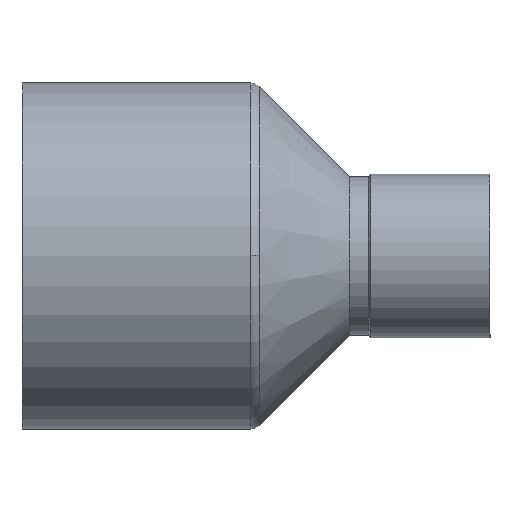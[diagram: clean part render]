
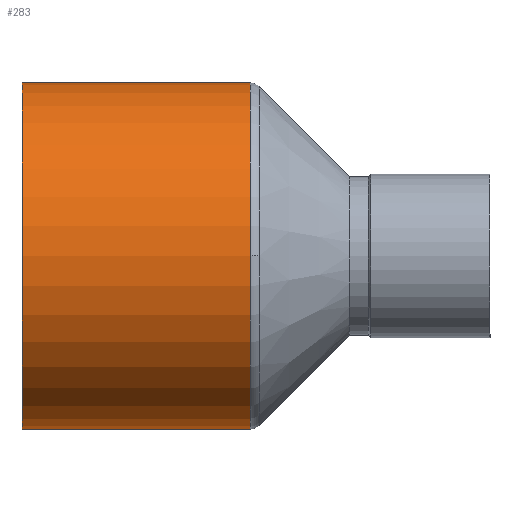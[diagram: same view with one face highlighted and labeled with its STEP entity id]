
A CAD part, top view. The second image highlights one B-rep face of the part: STEP entity #283.
In plain terms, the highlighted cylindrical face has radius 15.165 mm (diameter 30.33 mm), a partial arc.
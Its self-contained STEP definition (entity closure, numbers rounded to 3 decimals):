
#207=CARTESIAN_POINT('',(20.0,15.165,0.0));
#208=VERTEX_POINT('',#207);
#216=CARTESIAN_POINT('',(20.0,0.,15.165));
#217=VERTEX_POINT('',#216);
#218=CARTESIAN_POINT('',(20.0,0.0,0.0));
#219=DIRECTION('',(1.0,0.0,0.0));
#220=DIRECTION('',(0.0,1.0,0.0));
#221=AXIS2_PLACEMENT_3D('',#218,#219,#220);
#222=CIRCLE('',#221,15.165);
#223=EDGE_CURVE('',#208,#217,#222,.T.);
#243=CARTESIAN_POINT('',(10.0,0.0,0.0));
#244=DIRECTION('',(1.0,0.0,0.0));
#245=DIRECTION('',(0.0,1.0,0.0));
#246=AXIS2_PLACEMENT_3D('',#243,#244,#245);
#247=CYLINDRICAL_SURFACE('',#246,15.165);
#248=CARTESIAN_POINT('',(0.0,15.165,0.0));
#249=VERTEX_POINT('',#248);
#250=CARTESIAN_POINT('',(0.0,15.165,0.0));
#251=DIRECTION('',(1.0,0.0,0.0));
#252=VECTOR('',#251,20.0);
#253=LINE('',#250,#252);
#254=EDGE_CURVE('',#249,#208,#253,.T.);
#255=ORIENTED_EDGE('',*,*,#254,.F.);
#256=CARTESIAN_POINT('',(0.0,-15.165,0.));
#257=VERTEX_POINT('',#256);
#258=CARTESIAN_POINT('',(0.0,0.0,0.0));
#259=DIRECTION('',(1.0,0.0,0.0));
#260=DIRECTION('',(0.0,1.0,0.0));
#261=AXIS2_PLACEMENT_3D('',#258,#259,#260);
#262=CIRCLE('',#261,15.165);
#263=EDGE_CURVE('',#249,#257,#262,.T.);
#264=ORIENTED_EDGE('',*,*,#263,.T.);
#265=CARTESIAN_POINT('',(20.0,-15.165,0.));
#266=VERTEX_POINT('',#265);
#267=CARTESIAN_POINT('',(20.0,-15.165,0.));
#268=DIRECTION('',(-1.0,0.0,0.0));
#269=VECTOR('',#268,20.0);
#270=LINE('',#267,#269);
#271=EDGE_CURVE('',#266,#257,#270,.T.);
#272=ORIENTED_EDGE('',*,*,#271,.F.);
#273=CARTESIAN_POINT('',(20.0,0.0,0.0));
#274=DIRECTION('',(1.0,0.0,0.0));
#275=DIRECTION('',(0.0,1.0,0.0));
#276=AXIS2_PLACEMENT_3D('',#273,#274,#275);
#277=CIRCLE('',#276,15.165);
#278=EDGE_CURVE('',#217,#266,#277,.T.);
#279=ORIENTED_EDGE('',*,*,#278,.F.);
#280=ORIENTED_EDGE('',*,*,#223,.F.);
#281=EDGE_LOOP('',(#255,#264,#272,#279,#280));
#282=FACE_OUTER_BOUND('',#281,.T.);
#283=ADVANCED_FACE('',(#282),#247,.T.);
